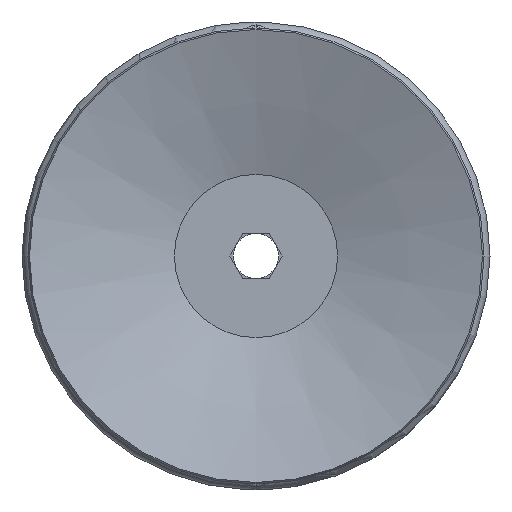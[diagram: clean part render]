
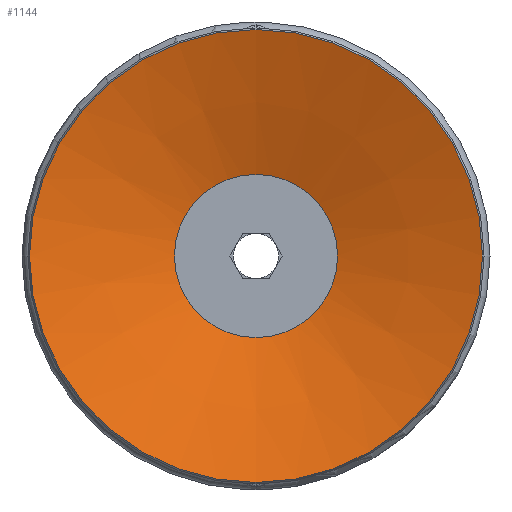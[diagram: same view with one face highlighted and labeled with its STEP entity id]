
A CAD part, front view. The second image highlights one B-rep face of the part: STEP entity #1144.
In plain terms, the highlighted conical face has half-angle 71.075 degrees and reference radius 15 mm.
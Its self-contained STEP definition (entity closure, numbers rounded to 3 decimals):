
#1144=ADVANCED_FACE('',(#2844,#2845),#2846,.F.);
#2844=FACE_BOUND('',#5161,.T.);
#2845=FACE_OUTER_BOUND('',#5162,.T.);
#2846=CONICAL_SURFACE('',#5163,15.0,1.24);
#5161=EDGE_LOOP('',(#8510));
#5162=EDGE_LOOP('',(#8511));
#5163=AXIS2_PLACEMENT_3D('',#8512,#8513,#8514);
#8510=ORIENTED_EDGE('',*,*,#15145,.T.);
#8511=ORIENTED_EDGE('',*,*,#15146,.T.);
#8512=CARTESIAN_POINT('',(0.,0.,0.0));
#8513=DIRECTION('',(0.0,0.,-1.0));
#8514=DIRECTION('',(0.0,1.0,0.));
#15145=EDGE_CURVE('',#18695,#18695,#18696,.T.);
#15146=EDGE_CURVE('',#18697,#18697,#18698,.T.);
#18695=VERTEX_POINT('',#25020);
#18696=CIRCLE('',#25021,5.4);
#18697=VERTEX_POINT('',#25022);
#18698=CIRCLE('',#25023,15.0);
#25020=CARTESIAN_POINT('',(-5.4,0.,3.291));
#25021=AXIS2_PLACEMENT_3D('',#30100,#30101,#30102);
#25022=CARTESIAN_POINT('',(0.,15.0,0.));
#25023=AXIS2_PLACEMENT_3D('',#30103,#30104,#30105);
#30100=CARTESIAN_POINT('',(0.,0.,3.291));
#30101=DIRECTION('',(0.,0.0,1.0));
#30102=DIRECTION('',(-1.0,0.0,0.));
#30103=CARTESIAN_POINT('',(0.,0.,0.0));
#30104=DIRECTION('',(0.0,0.,-1.0));
#30105=DIRECTION('',(0.0,1.0,0.));
